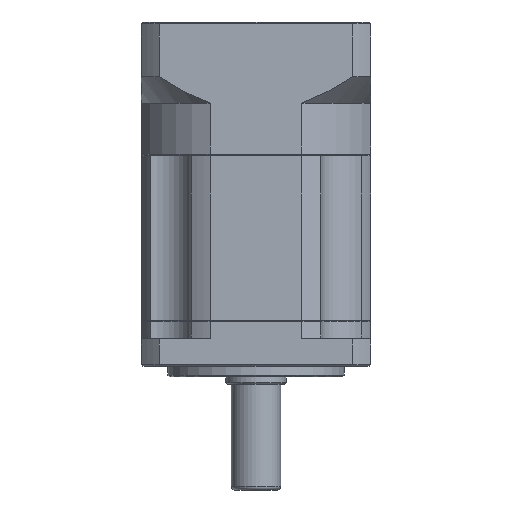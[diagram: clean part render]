
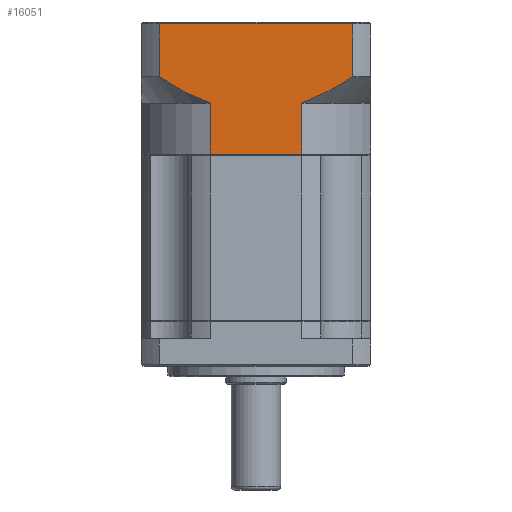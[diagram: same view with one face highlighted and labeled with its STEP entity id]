
A CAD part, front view. The second image highlights one B-rep face of the part: STEP entity #16051.
In plain terms, the highlighted planar face has unit normal (0, -1, 0).
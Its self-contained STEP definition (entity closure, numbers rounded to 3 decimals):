
#1118 = VECTOR ( 'NONE', #12875, 1000. ) ;
#1947 = CARTESIAN_POINT ( 'NONE',  ( 5.047, -27.975, 66.841 ) ) ;
#4266 = VERTEX_POINT ( 'NONE', #47547 ) ;
#6295 = LINE ( 'NONE', #12514, #1118 ) ;
#8043 = CARTESIAN_POINT ( 'NONE',  ( 55.26, -27.975, 66.854 ) ) ;
#8592 = LINE ( 'NONE', #54751, #27989 ) ;
#9425 = CARTESIAN_POINT ( 'NONE',  ( 2.778, -27.975, 83.303 ) ) ;
#9916 = CARTESIAN_POINT ( 'NONE',  ( 16.531, -27.975, 61.042 ) ) ;
#12514 = CARTESIAN_POINT ( 'NONE',  ( 57.55, -27.975, 65.803 ) ) ;
#12875 = DIRECTION ( 'NONE',  ( 0., 0., -1. ) ) ;
#14677 = CARTESIAN_POINT ( 'NONE',  ( 2.778, -27.975, 65.803 ) ) ;
#16051 = ADVANCED_FACE ( 'NONE', ( #20153 ), #72255, .F. ) ;
#16369 = CARTESIAN_POINT ( 'NONE',  ( 57.55, -27.975, 68.303 ) ) ;
#19171 = VECTOR ( 'NONE', #64292, 1000. ) ;
#20011 = B_SPLINE_CURVE_WITH_KNOTS ( 'NONE', 3,
 ( #26518, #9916, #67792, #34829, #92425, #43169, #100502, #51527, #1947, #59904 ),
 .UNSPECIFIED., .F., .F.,
 ( 4, 2, 2, 2, 4 ),
 ( 0.101, 0.104, 0.106, 0.11, 0.118 ),
 .UNSPECIFIED. ) ;
#20153 = FACE_OUTER_BOUND ( 'NONE', #94860, .T. ) ;
#20231 = VECTOR ( 'NONE', #79900, 1000. ) ;
#24652 = CARTESIAN_POINT ( 'NONE',  ( 51.739, -27.975, 64.799 ) ) ;
#26518 = CARTESIAN_POINT ( 'NONE',  ( 17.174, -27.975, 60.803 ) ) ;
#27989 = VECTOR ( 'NONE', #79554, 1000. ) ;
#28089 = VECTOR ( 'NONE', #76437, 1000. ) ;
#28853 = CARTESIAN_POINT ( 'NONE',  ( 2.778, -27.975, 68.303 ) ) ;
#30477 = CARTESIAN_POINT ( 'NONE',  ( 43.155, -27.975, 60.803 ) ) ;
#32986 = CARTESIAN_POINT ( 'NONE',  ( 45.694, -27.975, 61.746 ) ) ;
#34829 = CARTESIAN_POINT ( 'NONE',  ( 14.632, -27.975, 61.82 ) ) ;
#35190 = CARTESIAN_POINT ( 'NONE',  ( 17.174, -27.975, 60.803 ) ) ;
#36607 = B_SPLINE_CURVE_WITH_KNOTS ( 'NONE', 3,
 ( #16369, #106113, #8043, #74224, #24652, #82422, #32986, #90575 ),
 .UNSPECIFIED., .F., .F.,
 ( 4, 2, 2, 4 ),
 ( 0.059, 0.063, 0.067, 0.075 ),
 .UNSPECIFIED. ) ;
#43169 = CARTESIAN_POINT ( 'NONE',  ( 12.155, -27.975, 62.943 ) ) ;
#43715 = CARTESIAN_POINT ( 'NONE',  ( 17.174, -27.975, 60.803 ) ) ;
#46470 = DIRECTION ( 'NONE',  ( -1., 0., 0. ) ) ;
#47547 = CARTESIAN_POINT ( 'NONE',  ( 43.155, -27.975, 46.392 ) ) ;
#50116 = LINE ( 'NONE', #35190, #28089 ) ;
#51527 = CARTESIAN_POINT ( 'NONE',  ( 7.362, -27.975, 65.453 ) ) ;
#52271 = CARTESIAN_POINT ( 'NONE',  ( 43.155, -27.975, 60.803 ) ) ;
#54751 = CARTESIAN_POINT ( 'NONE',  ( 62.664, -27.975, 46.392 ) ) ;
#56778 = LINE ( 'NONE', #95685, #100213 ) ;
#59006 = CARTESIAN_POINT ( 'NONE',  ( 17.174, -27.975, 46.392 ) ) ;
#59904 = CARTESIAN_POINT ( 'NONE',  ( 2.778, -27.975, 68.303 ) ) ;
#60667 = LINE ( 'NONE', #14677, #19171 ) ;
#64292 = DIRECTION ( 'NONE',  ( 0., 0., 1. ) ) ;
#67157 = CARTESIAN_POINT ( 'NONE',  ( 57.55, -27.975, 83.303 ) ) ;
#67792 = CARTESIAN_POINT ( 'NONE',  ( 15.893, -27.975, 61.294 ) ) ;
#71246 = DIRECTION ( 'NONE',  ( -1., 0., 0. ) ) ;
#71496 = DIRECTION ( 'NONE',  ( 0., 1., 0. ) ) ;
#71760 = CARTESIAN_POINT ( 'NONE',  ( 62.664, -27.975, 83.803 ) ) ;
#72255 = PLANE ( 'NONE',  #97600 ) ;
#74224 = CARTESIAN_POINT ( 'NONE',  ( 52.925, -27.975, 65.469 ) ) ;
#75133 = ORIENTED_EDGE ( 'NONE', *, *, #85397, .F. ) ;
#75779 = ORIENTED_EDGE ( 'NONE', *, *, #85407, .T. ) ;
#76182 = ORIENTED_EDGE ( 'NONE', *, *, #85541, .F. ) ;
#76437 = DIRECTION ( 'NONE',  ( 0., 0., 1. ) ) ;
#77127 = ORIENTED_EDGE ( 'NONE', *, *, #85849, .F. ) ;
#77949 = ORIENTED_EDGE ( 'NONE', *, *, #85867, .F. ) ;
#79109 = ORIENTED_EDGE ( 'NONE', *, *, #86160, .T. ) ;
#79257 = ORIENTED_EDGE ( 'NONE', *, *, #86173, .F. ) ;
#79554 = DIRECTION ( 'NONE',  ( 1., 0., 0. ) ) ;
#79900 = DIRECTION ( 'NONE',  ( 0., 0., -1. ) ) ;
#80325 = ORIENTED_EDGE ( 'NONE', *, *, #86308, .F. ) ;
#82422 = CARTESIAN_POINT ( 'NONE',  ( 48.145, -27.975, 62.89 ) ) ;
#85397 = EDGE_CURVE ( 'NONE', #91642, #94299, #6295, .T. ) ;
#85407 = EDGE_CURVE ( 'NONE', #91642, #100638, #56778, .T. ) ;
#85541 = EDGE_CURVE ( 'NONE', #96909, #100638, #60667, .T. ) ;
#85849 = EDGE_CURVE ( 'NONE', #89558, #96909, #20011, .T. ) ;
#85867 = EDGE_CURVE ( 'NONE', #94393, #89558, #50116, .T. ) ;
#86160 = EDGE_CURVE ( 'NONE', #94393, #4266, #8592, .T. ) ;
#86173 = EDGE_CURVE ( 'NONE', #101979, #4266, #104986, .T. ) ;
#86308 = EDGE_CURVE ( 'NONE', #94299, #101979, #36607, .T. ) ;
#89558 = VERTEX_POINT ( 'NONE', #43715 ) ;
#90575 = CARTESIAN_POINT ( 'NONE',  ( 43.155, -27.975, 60.803 ) ) ;
#91642 = VERTEX_POINT ( 'NONE', #67157 ) ;
#92425 = CARTESIAN_POINT ( 'NONE',  ( 14.008, -27.975, 62.093 ) ) ;
#94299 = VERTEX_POINT ( 'NONE', #98251 ) ;
#94393 = VERTEX_POINT ( 'NONE', #59006 ) ;
#94860 = EDGE_LOOP ( 'NONE', ( #75133, #75779, #76182, #77127, #77949, #79109, #79257, #80325 ) ) ;
#95685 = CARTESIAN_POINT ( 'NONE',  ( 2.778, -27.975, 83.303 ) ) ;
#96909 = VERTEX_POINT ( 'NONE', #28853 ) ;
#97600 = AXIS2_PLACEMENT_3D ( 'NONE', #71760, #71496, #71246 ) ;
#98251 = CARTESIAN_POINT ( 'NONE',  ( 57.55, -27.975, 68.303 ) ) ;
#100213 = VECTOR ( 'NONE', #46470, 1000. ) ;
#100502 = CARTESIAN_POINT ( 'NONE',  ( 10.943, -27.975, 63.548 ) ) ;
#100638 = VERTEX_POINT ( 'NONE', #9425 ) ;
#101979 = VERTEX_POINT ( 'NONE', #52271 ) ;
#104986 = LINE ( 'NONE', #30477, #20231 ) ;
#106113 = CARTESIAN_POINT ( 'NONE',  ( 56.412, -27.975, 67.57 ) ) ;
